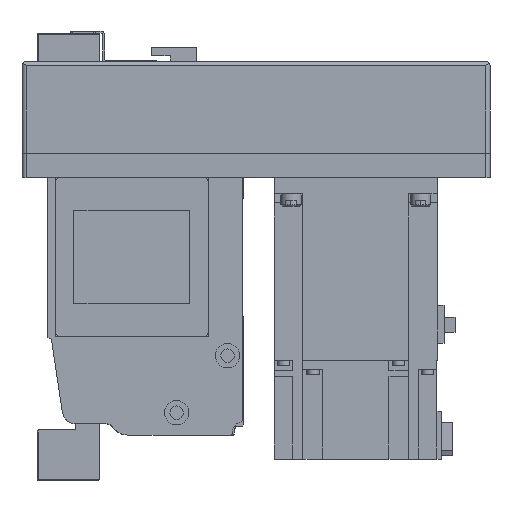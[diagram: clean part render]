
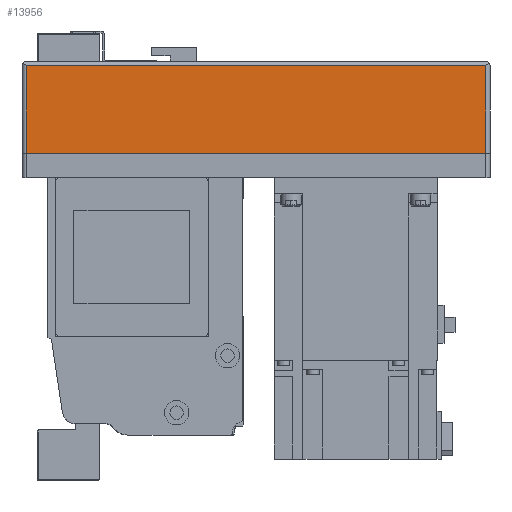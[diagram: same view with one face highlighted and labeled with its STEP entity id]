
A CAD part, left-side view. The second image highlights one B-rep face of the part: STEP entity #13956.
In plain terms, the highlighted planar face has unit normal (-1, 0, 0) as drawn and (0, -1, 0) by its records, which use the part's own axes.
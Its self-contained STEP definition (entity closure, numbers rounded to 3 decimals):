
#2401=ORIENTED_EDGE('',*,*,#5726,.F.);
#2402=ORIENTED_EDGE('',*,*,#5729,.T.);
#2403=ORIENTED_EDGE('',*,*,#5730,.T.);
#2404=ORIENTED_EDGE('',*,*,#5731,.F.);
#5726=EDGE_CURVE('',#7519,#7520,#8985,.T.);
#5729=EDGE_CURVE('',#7519,#7522,#8987,.T.);
#5730=EDGE_CURVE('',#7522,#7523,#8988,.T.);
#5731=EDGE_CURVE('',#7520,#7523,#8989,.T.);
#7519=VERTEX_POINT('',#21877);
#7520=VERTEX_POINT('',#21879);
#7522=VERTEX_POINT('',#21885);
#7523=VERTEX_POINT('',#21887);
#8985=LINE('',#21878,#10298);
#8987=LINE('',#21884,#10300);
#8988=LINE('',#21886,#10301);
#8989=LINE('',#21888,#10302);
#10298=VECTOR('',#17464,1000.);
#10300=VECTOR('',#17470,1000.);
#10301=VECTOR('',#17471,1000.);
#10302=VECTOR('',#17472,1000.);
#11422=EDGE_LOOP('',(#2401,#2402,#2403,#2404));
#12473=FACE_BOUND('',#11422,.T.);
#13374=PLANE('',#14976);
#13956=ADVANCED_FACE('',(#12473),#13374,.T.);
#14976=AXIS2_PLACEMENT_3D('',#21883,#17468,#17469);
#17464=DIRECTION('',(0.,0.,1.));
#17468=DIRECTION('',(0.,-1.,0.));
#17469=DIRECTION('',(0.,0.,-1.));
#17470=DIRECTION('',(1.,0.,0.));
#17471=DIRECTION('',(0.,0.,1.));
#17472=DIRECTION('',(1.,0.,0.));
#21877=CARTESIAN_POINT('',(-228.,-54.,-55.));
#21878=CARTESIAN_POINT('',(-228.,-54.,-57.));
#21879=CARTESIAN_POINT('',(-228.,-54.,-12.));
#21883=CARTESIAN_POINT('',(-228.,-54.,-57.));
#21884=CARTESIAN_POINT('',(-230.,-54.,-55.));
#21885=CARTESIAN_POINT('',(-2.,-54.,-55.));
#21886=CARTESIAN_POINT('',(-2.,-54.,-57.));
#21887=CARTESIAN_POINT('',(-2.,-54.,-12.));
#21888=CARTESIAN_POINT('',(-228.,-54.,-12.));
